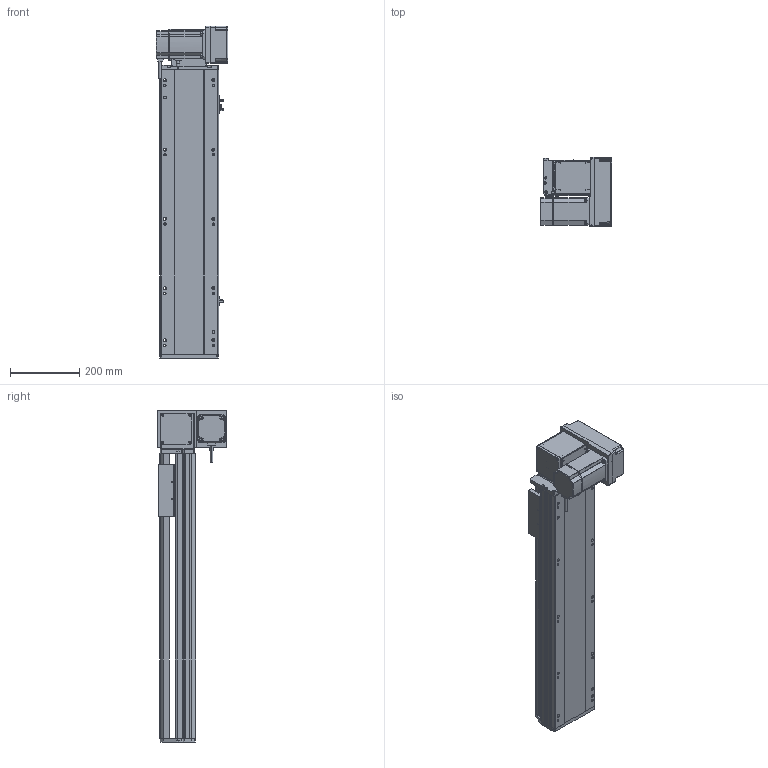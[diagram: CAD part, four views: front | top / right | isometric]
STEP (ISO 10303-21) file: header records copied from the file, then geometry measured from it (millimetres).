
FILE_DESCRIPTION (( 'STEP AP214' ), '1' );
FILE_NAME ('RTB17S-XX-550-RM-M75-C4.STEP', '2025-12-12T02:02:40', ( '' ), ( '' ), 'SwSTEP 2.0', 'SolidWorks 2018', '' );
FILE_SCHEMA (( 'AUTOMOTIVE_DESIGN' ));
Length unit declared in the file: millimetre
Products named in the file (15): EE672^RTB17S-XX-XX-RM-M75-C4; RTB22S-GY-017P^RTB17S-RM-々湍釱蚾饜-750W_RTB17S-XX-XX-RM-M75-C4; RTB17-R-011菁釱^RTB17S-XX-XX-RM-M75-C4; RTB22S-GY-005P^RTB17S-RM-々湍釱蚾饜-750W_RTB17S-XX-XX-RM-M75-C4; RTB17S-L-014-T20-P75--々湍釱^RTB17S-RM-々湍釱蚾饜-750W_RTB17S-XX-XX-RM-M75-C4; RTB17S-RM-々湍釱蚾饜-750W^RTB17S-XX-XX-RM-M75-C4; RTB17S-L-007奻裔^RTB17S-XX-XX-RM-M75-C4; RTH13-BL-012覜茼え俋离^RTB17S-賑釱_RTB17S-XX-XX-RM-M75-C4; RTB17S-L-004-賑釱^RTB17S-賑釱_RTB17S-XX-XX-RM-M75-C4; RTB17S-XX-550-RM-M75-C4; RTB22S-GY-008-M75--萇儂啣^RTB17S-RM-々湍釱蚾饜-750W_RTB17S-XX-XX-RM-M75-C4; RTB22S-GY-018P^RTB17S-RM-々湍釱蚾饜-750W_RTB17S-XX-XX-RM-M75-C4; 750W萇儂^RTB17S-XX-XX-RM-M75-C4; RTB17S-賑釱^RTB17S-XX-XX-RM-M75-C4; RTB17S-L-001-耜醱啣^RTB17S-XX-XX-RM-M75-C4
Assembly tree (17 placements, depth 3):
  RTB17S-XX-550-RM-M75-C4
    RTB17-R-011菁釱^RTB17S-XX-XX-RM-M75-C4
    EE672^RTB17S-XX-XX-RM-M75-C4  x3
    RTB17S-L-001-耜醱啣^RTB17S-XX-XX-RM-M75-C4
    RTB17S-賑釱^RTB17S-XX-XX-RM-M75-C4
      RTB17S-L-004-賑釱^RTB17S-賑釱_RTB17S-XX-XX-RM-M75-C4
      RTH13-BL-012覜茼え俋离^RTB17S-賑釱_RTB17S-XX-XX-RM-M75-C4
    RTB17S-L-007奻裔^RTB17S-XX-XX-RM-M75-C4
    750W萇儂^RTB17S-XX-XX-RM-M75-C4
    RTB17S-RM-々湍釱蚾饜-750W^RTB17S-XX-XX-RM-M75-C4
      RTB17S-L-014-T20-P75--々湍釱^RTB17S-RM-々湍釱蚾饜-750W_RTB17S-XX-XX-RM-M75-C4
      RTB22S-GY-005P^RTB17S-RM-々湍釱蚾饜-750W_RTB17S-XX-XX-RM-M75-C4
      RTB22S-GY-017P^RTB17S-RM-々湍釱蚾饜-750W_RTB17S-XX-XX-RM-M75-C4  x2
      RTB22S-GY-008-M75--萇儂啣^RTB17S-RM-々湍釱蚾饜-750W_RTB17S-XX-XX-RM-M75-C4
      RTB22S-GY-018P^RTB17S-RM-々湍釱蚾饜-750W_RTB17S-XX-XX-RM-M75-C4
Bounding box: 207.4 x 200 x 957.5 mm (x, y, z)
Volume: 9388117.6 mm3; surface area: 1518170.9 mm2
Topology: 17 solids, 17 shells, 2057 faces, 5674 edges, 3662 vertices
Faces by surface type: plane 966, cylinder 675, bspline 294, cone 110, sphere 8, torus 4
Entity records: 56566 total; most frequent: CARTESIAN_POINT 16538, ORIENTED_EDGE 8192, DIRECTION 7682, EDGE_CURVE 4096, AXIS2_PLACEMENT_3D 2682, VERTEX_POINT 2666, LINE 2318, VECTOR 2318
